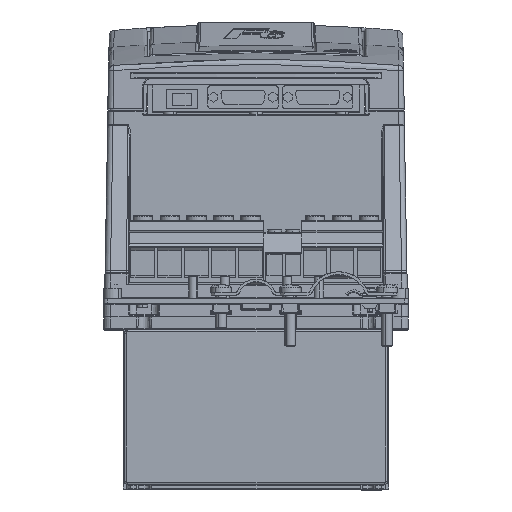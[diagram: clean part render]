
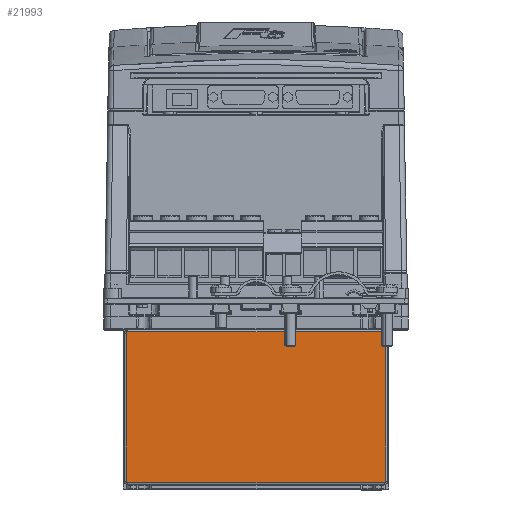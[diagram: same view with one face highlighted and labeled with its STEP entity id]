
A CAD part, top view. The second image highlights one B-rep face of the part: STEP entity #21993.
In plain terms, the highlighted planar face has unit normal (0, 0, 1).
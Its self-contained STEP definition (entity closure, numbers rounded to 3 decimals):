
#44 = CARTESIAN_POINT ( 'NONE',  ( 72.5, -45.9, 60. ) ) ;
#1800 = DIRECTION ( 'NONE',  ( 1., 0., 0. ) ) ;
#1844 = EDGE_CURVE ( 'NONE', #70859, #98624, #38250, .T. ) ;
#3631 = VERTEX_POINT ( 'NONE', #74441 ) ;
#3754 = CARTESIAN_POINT ( 'NONE',  ( -71.5, -88.15, 60. ) ) ;
#6858 = EDGE_CURVE ( 'NONE', #41349, #70859, #104899, .T. ) ;
#8702 = LINE ( 'NONE', #44, #82867 ) ;
#12642 = FACE_OUTER_BOUND ( 'NONE', #21585, .T. ) ;
#13204 = DIRECTION ( 'NONE',  ( 0., 0., 1. ) ) ;
#16119 = AXIS2_PLACEMENT_3D ( 'NONE', #93256, #74699, #21469 ) ;
#17456 = LINE ( 'NONE', #59735, #53877 ) ;
#18708 = VERTEX_POINT ( 'NONE', #55473 ) ;
#19170 = CARTESIAN_POINT ( 'NONE',  ( 71.5, -87.15, 60. ) ) ;
#19594 = CARTESIAN_POINT ( 'NONE',  ( 0., -45.9, 60. ) ) ;
#20937 = VERTEX_POINT ( 'NONE', #46253 ) ;
#21469 = DIRECTION ( 'NONE',  ( 1., 0., 0. ) ) ;
#21585 = EDGE_LOOP ( 'NONE', ( #39522, #50152, #31026, #105780, #87228, #48192, #111030, #104276 ) ) ;
#21993 = ADVANCED_FACE ( 'NONE', ( #12642 ), #39804, .T. ) ;
#27235 = DIRECTION ( 'NONE',  ( 1., 0., 0. ) ) ;
#29426 = DIRECTION ( 'NONE',  ( 1., 0., 0. ) ) ;
#30580 = CARTESIAN_POINT ( 'NONE',  ( 72.5, -87.15, 60. ) ) ;
#31026 = ORIENTED_EDGE ( 'NONE', *, *, #35503, .T. ) ;
#32968 = CARTESIAN_POINT ( 'NONE',  ( -71.5, -87.15, 60. ) ) ;
#34883 = AXIS2_PLACEMENT_3D ( 'NONE', #32968, #59014, #59576 ) ;
#35069 = EDGE_CURVE ( 'NONE', #98624, #18708, #8702, .T. ) ;
#35413 = EDGE_CURVE ( 'NONE', #57189, #41349, #49413, .T. ) ;
#35503 = EDGE_CURVE ( 'NONE', #3631, #20937, #109978, .T. ) ;
#38250 = CIRCLE ( 'NONE', #112222, 1. ) ;
#39522 = ORIENTED_EDGE ( 'NONE', *, *, #35069, .T. ) ;
#39804 = PLANE ( 'NONE',  #62905 ) ;
#41349 = VERTEX_POINT ( 'NONE', #3754 ) ;
#44281 = EDGE_CURVE ( 'NONE', #18708, #3631, #103142, .T. ) ;
#46215 = EDGE_CURVE ( 'NONE', #64874, #57189, #17456, .T. ) ;
#46239 = VECTOR ( 'NONE', #27235, 1000. ) ;
#46253 = CARTESIAN_POINT ( 'NONE',  ( -71.5, -3.65, 60. ) ) ;
#48192 = ORIENTED_EDGE ( 'NONE', *, *, #35413, .T. ) ;
#48601 = CARTESIAN_POINT ( 'NONE',  ( 0., -3.65, 60. ) ) ;
#49413 = CIRCLE ( 'NONE', #34883, 1. ) ;
#50152 = ORIENTED_EDGE ( 'NONE', *, *, #44281, .T. ) ;
#52013 = CARTESIAN_POINT ( 'NONE',  ( -72.5, -87.15, 60. ) ) ;
#52736 = DIRECTION ( 'NONE',  ( 0., 1., 0. ) ) ;
#53877 = VECTOR ( 'NONE', #77664, 1000. ) ;
#55069 = DIRECTION ( 'NONE',  ( 1., 0., 0. ) ) ;
#55473 = CARTESIAN_POINT ( 'NONE',  ( 72.5, -4.65, 60. ) ) ;
#56197 = DIRECTION ( 'NONE',  ( 0., 0., 1. ) ) ;
#57189 = VERTEX_POINT ( 'NONE', #52013 ) ;
#59014 = DIRECTION ( 'NONE',  ( 0., 0., 1. ) ) ;
#59576 = DIRECTION ( 'NONE',  ( 1., 0., 0. ) ) ;
#59735 = CARTESIAN_POINT ( 'NONE',  ( -72.5, -45.9, 60. ) ) ;
#62905 = AXIS2_PLACEMENT_3D ( 'NONE', #19594, #13204, #29426 ) ;
#64871 = CARTESIAN_POINT ( 'NONE',  ( 71.5, -4.65, 60. ) ) ;
#64874 = VERTEX_POINT ( 'NONE', #76073 ) ;
#70859 = VERTEX_POINT ( 'NONE', #106015 ) ;
#74441 = CARTESIAN_POINT ( 'NONE',  ( 71.5, -3.65, 60. ) ) ;
#74699 = DIRECTION ( 'NONE',  ( 0., 0., 1. ) ) ;
#76073 = CARTESIAN_POINT ( 'NONE',  ( -72.5, -4.65, 60. ) ) ;
#77066 = CIRCLE ( 'NONE', #16119, 1. ) ;
#77664 = DIRECTION ( 'NONE',  ( 0., -1., 0. ) ) ;
#79224 = VECTOR ( 'NONE', #101334, 1000. ) ;
#82746 = AXIS2_PLACEMENT_3D ( 'NONE', #64871, #56197, #55069 ) ;
#82867 = VECTOR ( 'NONE', #52736, 1000. ) ;
#86917 = CARTESIAN_POINT ( 'NONE',  ( 0., -88.15, 60. ) ) ;
#87228 = ORIENTED_EDGE ( 'NONE', *, *, #46215, .T. ) ;
#93256 = CARTESIAN_POINT ( 'NONE',  ( -71.5, -4.65, 60. ) ) ;
#98624 = VERTEX_POINT ( 'NONE', #30580 ) ;
#99658 = DIRECTION ( 'NONE',  ( 0., 0., 1. ) ) ;
#101334 = DIRECTION ( 'NONE',  ( -1., 0., 0. ) ) ;
#102726 = EDGE_CURVE ( 'NONE', #20937, #64874, #77066, .T. ) ;
#103142 = CIRCLE ( 'NONE', #82746, 1. ) ;
#104276 = ORIENTED_EDGE ( 'NONE', *, *, #1844, .T. ) ;
#104899 = LINE ( 'NONE', #86917, #46239 ) ;
#105780 = ORIENTED_EDGE ( 'NONE', *, *, #102726, .T. ) ;
#106015 = CARTESIAN_POINT ( 'NONE',  ( 71.5, -88.15, 60. ) ) ;
#109978 = LINE ( 'NONE', #48601, #79224 ) ;
#111030 = ORIENTED_EDGE ( 'NONE', *, *, #6858, .T. ) ;
#112222 = AXIS2_PLACEMENT_3D ( 'NONE', #19170, #99658, #1800 ) ;
